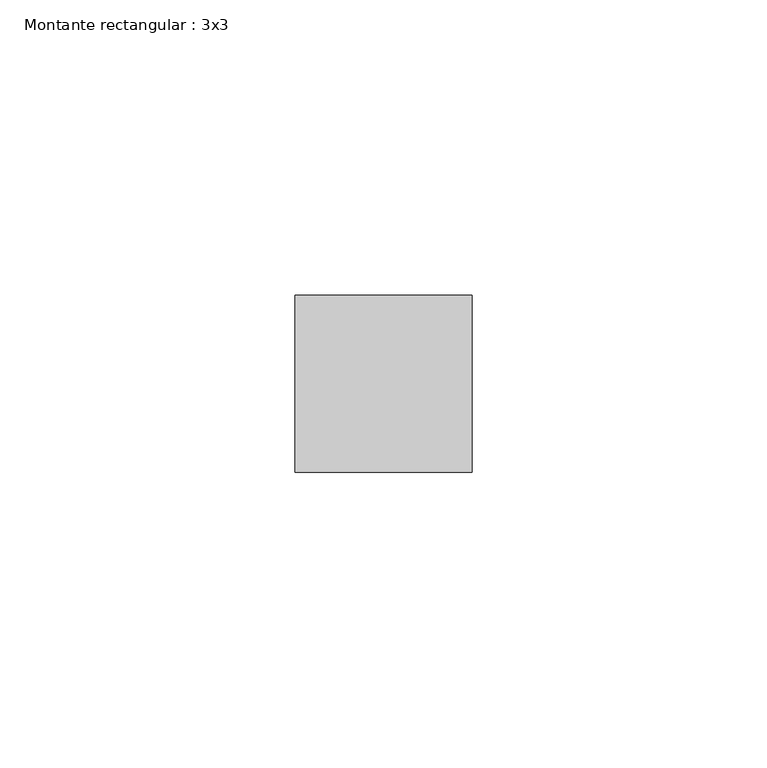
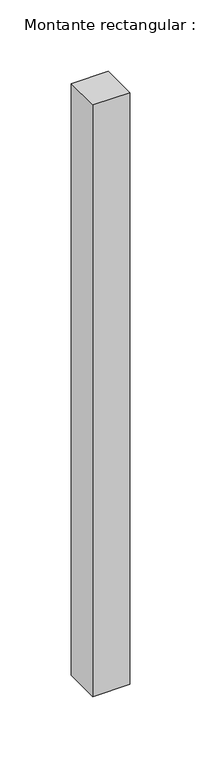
"""IFC4 building model written with IfcOpenShell, lengths in millimetres: member geometry, Montante rectangular : 3x3."""

import ifcopenshell
import ifcopenshell.guid

model = None  # the IFC model being written
_history = None  # IfcOwnerHistory: only IFC2X3 demands one
_inside = {}  # id of a spatial element -> (the spatial element, [elements in it])
_under = {}  # id of a project, library or spatial element -> (it, [spatial elements below it])
_declared = {}  # id of a project -> (the project, [libraries it declares])
_typed = {}  # id of a type object -> (the type object, [elements of that type])
_made_of = {}  # id of a material, layer set ... -> (it, [elements and type objects made of it])


def new_model(schema):
    """Start an empty IFC model of exactly this schema.

    Asked for "IFC4X3", IfcOpenShell would pick the latest addendum, in which some entities
    have other attributes; the version numbers below select the first issue.
    IFC2X3 requires an IfcOwnerHistory on every rooted entity: one is made here for all.
    """
    global model, _history
    if schema == "IFC4X3":
        model = ifcopenshell.file(schema_version=(4, 3, 0, 0))
    else:
        model = ifcopenshell.file(schema=schema)
    _inside.clear()
    _under.clear()
    _declared.clear()
    _typed.clear()
    _made_of.clear()
    _history = None
    if model.schema == "IFC2X3":
        org = make("IfcOrganization", Name="unknown")
        user = make(
            "IfcPersonAndOrganization",
            ThePerson=make("IfcPerson", FamilyName="unknown"),
            TheOrganization=org,
        )
        app = make(
            "IfcApplication",
            ApplicationDeveloper=org,
            Version="unknown",
            ApplicationFullName="unknown",
            ApplicationIdentifier="unknown",
        )
        _history = make(
            "IfcOwnerHistory",
            OwningUser=user,
            OwningApplication=app,
            ChangeAction="ADDED",
            CreationDate=0,
        )
    return model


def make(cls, **values):
    """One entity of the class cls with the attributes given. An attribute that is None is left unset."""
    return model.create_entity(
        cls, **{name: value for name, value in values.items() if value is not None}
    )


def rooted(cls, **values):
    """An entity with a GlobalId (a new one), such as an element, a storey or a relation."""
    return make(cls, GlobalId=ifcopenshell.guid.new(), OwnerHistory=_history, **values)


def si_unit(unit_type, name, prefix=None):
    """IfcSIUnit, for example si_unit("LENGTHUNIT", "METRE", prefix="MILLI")."""
    return make("IfcSIUnit", UnitType=unit_type, Prefix=prefix, Name=name)


def assignment(units):
    """IfcUnitAssignment: the units of a project."""
    return None if units is None else make("IfcUnitAssignment", Units=units)


def point(xyz):
    """IfcCartesianPoint."""
    return None if xyz is None else make("IfcCartesianPoint", Coordinates=xyz)


def direction(xyz):
    """IfcDirection."""
    return None if xyz is None else make("IfcDirection", DirectionRatios=xyz)


def frame(location, z_axis=None, x_axis=None):
    """IfcAxis2Placement3D, a coordinate frame: its origin and axes. An axis left out is left unset."""
    return make(
        "IfcAxis2Placement3D",
        Location=point(location),
        Axis=direction(z_axis),
        RefDirection=direction(x_axis),
    )


def origin():
    """The frame at (0, 0, 0) with its axes left unset."""
    return frame((0.0, 0.0, 0.0))


def place(relative_to, where):
    """IfcLocalPlacement: puts the frame where relative to a parent placement (None: the world)."""
    return make(
        "IfcLocalPlacement", PlacementRelTo=relative_to, RelativePlacement=where
    )


def context(
    kind, dimensions, precision=None, world=None, true_north=None, identifier=None
):
    """IfcGeometricRepresentationContext, for example the 3D "Model" context."""
    return make(
        "IfcGeometricRepresentationContext",
        ContextIdentifier=identifier,
        ContextType=kind,
        CoordinateSpaceDimension=dimensions,
        Precision=precision,
        WorldCoordinateSystem=world,
        TrueNorth=true_north,
    )


def project(units=None, contexts=None):
    """IfcProject with its units and contexts."""
    return rooted(
        "IfcProject",
        Name="project",
        RepresentationContexts=contexts,
        UnitsInContext=assignment(units),
    )


def spatial(cls, under=None, at=None, **own):
    """A site, building, storey or space (cls), placed at a placement, below another one or the project."""
    s = rooted(cls, ObjectPlacement=at, **own)
    if under is not None:
        _under.setdefault(under.id(), (under, []))[1].append(s)
    return s


def polyline(points):
    """IfcPolyline through the points."""
    return make("IfcPolyline", Points=[point(p) for p in points])


def outline(outer, holes=None, kind="AREA"):
    """IfcArbitraryClosedProfileDef: a profile drawn as a closed curve; with holes, ...WithVoids."""
    if holes is None:
        return make("IfcArbitraryClosedProfileDef", ProfileType=kind, OuterCurve=outer)
    return make(
        "IfcArbitraryProfileDefWithVoids",
        ProfileType=kind,
        OuterCurve=outer,
        InnerCurves=holes,
    )


def extrude(swept, where, along, depth):
    """IfcExtrudedAreaSolid: the profile swept, set in the frame where, extruded along a direction by depth."""
    return make(
        "IfcExtrudedAreaSolid",
        SweptArea=swept,
        Position=where,
        ExtrudedDirection=direction(along),
        Depth=depth,
    )


def shape(context_of_items, identifier, shape_type, items):
    """IfcShapeRepresentation: the items that make up one representation, for example the "Body"."""
    return make(
        "IfcShapeRepresentation",
        ContextOfItems=context_of_items,
        RepresentationIdentifier=identifier,
        RepresentationType=shape_type,
        Items=items,
    )


def source(mapping_origin, context_of_items, identifier, shape_type, items):
    """IfcRepresentationMap: a shape defined once, which mapped items show again and again."""
    return make(
        "IfcRepresentationMap",
        MappingOrigin=mapping_origin,
        MappedRepresentation=shape(context_of_items, identifier, shape_type, items),
    )


def transform(
    local_origin,
    x_axis=None,
    y_axis=None,
    z_axis=None,
    scale=None,
    scale2=None,
    scale3=None,
    uniform=True,
):
    """IfcCartesianTransformationOperator3D, or its non-uniform kind. x_axis, y_axis, z_axis: its Axis1, 2, 3."""
    if uniform:
        return make(
            "IfcCartesianTransformationOperator3D",
            Axis1=direction(x_axis),
            Axis2=direction(y_axis),
            LocalOrigin=point(local_origin),
            Scale=scale,
            Axis3=direction(z_axis),
        )
    return make(
        "IfcCartesianTransformationOperator3DnonUniform",
        Axis1=direction(x_axis),
        Axis2=direction(y_axis),
        LocalOrigin=point(local_origin),
        Scale=scale,
        Axis3=direction(z_axis),
        Scale2=scale2,
        Scale3=scale3,
    )


def mapped(mapping_source, mapping_target):
    """IfcMappedItem: shows the shape of a source again, moved by a transform."""
    return make(
        "IfcMappedItem", MappingSource=mapping_source, MappingTarget=mapping_target
    )


def made_of(thing, what):
    """Note that an element or type object is made of a material, layer set ...; save() writes the relation."""
    if what is not None:
        _made_of.setdefault(what.id(), (what, []))[1].append(thing)
    return thing


def element(
    cls,
    number,
    at=None,
    inside=None,
    cuts=None,
    type_object=None,
    material=None,
    context=None,
    identifier="Body",
    shape_type=None,
    held_by="IfcProductDefinitionShape",
    body=None,
    shapes=None,
    **own,
):
    """One element of the class cls, such as IfcWall. Its Tag is "e" and its number.

    at: its placement. inside: the storey or other place that contains it. cuts: it is an
    opening in that element (IfcRelVoidsElement). A single representation is given by context,
    identifier, shape_type and body (its items); several are given by shapes. held_by: the class
    of the entity that holds the representations. save() writes the other relations.
    """
    e = rooted(cls, Tag="e%d" % number, ObjectPlacement=at, **own)
    if body is not None:
        shapes = [shape(context, identifier, shape_type, body)]
    if shapes is not None:
        e.Representation = make(held_by, Representations=shapes)
    if inside is not None:
        _inside.setdefault(inside.id(), (inside, []))[1].append(e)
    if cuts is not None:
        rooted(
            "IfcRelVoidsElement", RelatingBuildingElement=cuts, RelatedOpeningElement=e
        )
    if type_object is not None:
        _typed.setdefault(type_object.id(), (type_object, []))[1].append(e)
    return made_of(e, material)


def aggregate(whole, parts):
    """IfcRelAggregates: a whole, such as a stair, and the parts it consists of."""
    return rooted("IfcRelAggregates", RelatingObject=whole, RelatedObjects=parts)


def save(model, path):
    """Write the relations noted so far, then the file.

    IfcRelAggregates (storeys below a building ...), IfcRelContainedInSpatialStructure (elements
    in a storey), IfcRelDefinesByType, IfcRelAssociatesMaterial and IfcRelDeclares: one each for
    every whole, place, type object, material and project.
    """
    for whole, parts in _under.values():
        aggregate(whole, parts)
    for where, things in _inside.values():
        rooted(
            "IfcRelContainedInSpatialStructure",
            RelatedElements=things,
            RelatingStructure=where,
        )
    for kind, things in _typed.values():
        rooted("IfcRelDefinesByType", RelatedObjects=things, RelatingType=kind)
    for what, things in _made_of.values():
        rooted("IfcRelAssociatesMaterial", RelatedObjects=things, RelatingMaterial=what)
    for by, libraries in _declared.values():
        rooted("IfcRelDeclares", RelatingContext=by, RelatedDefinitions=libraries)
    model.write(path)


def montante_rectangular_3x3_9da3d00d(model_context):
    return source(origin(), model_context, "Body", "SweptSolid", [
        extrude(outline(polyline([(0.0, 15.0), (0.0, -15.0), (-30.0, -15.0), (-30.0, 15.0), (0.0, 15.0)])), frame((0.0, 0.0, -507.05), z_axis=(0.0, 0.0, 1.0), x_axis=(1.0, 0.0, 0.0)), (0.0, 0.0, 1.0), 507.05),
    ])


if __name__ == "__main__":
    model = new_model("IFC4")
    model_context = context("Model", 3, world=origin())
    ifc_project = project(units=[si_unit("LENGTHUNIT", "METRE", prefix="MILLI")], contexts=[model_context])
    site = spatial("IfcSite", under=ifc_project)
    building = spatial("IfcBuilding", under=site)
    placement = place(None, origin())
    montante_rectangular_3x3_shape = montante_rectangular_3x3_9da3d00d(model_context)
    element("IfcMember", 1, ObjectType="Montante rectangular : 3x3", at=placement, inside=building, context=model_context, shape_type="MappedRepresentation", body=[
        mapped(montante_rectangular_3x3_shape, transform((0.0, 0.0, 0.0), x_axis=(1.0, 0.0, 0.0), y_axis=(0.0, 1.0, 0.0), z_axis=(0.0, 0.0, 1.0))),
    ])
    save(model, "model.ifc")
